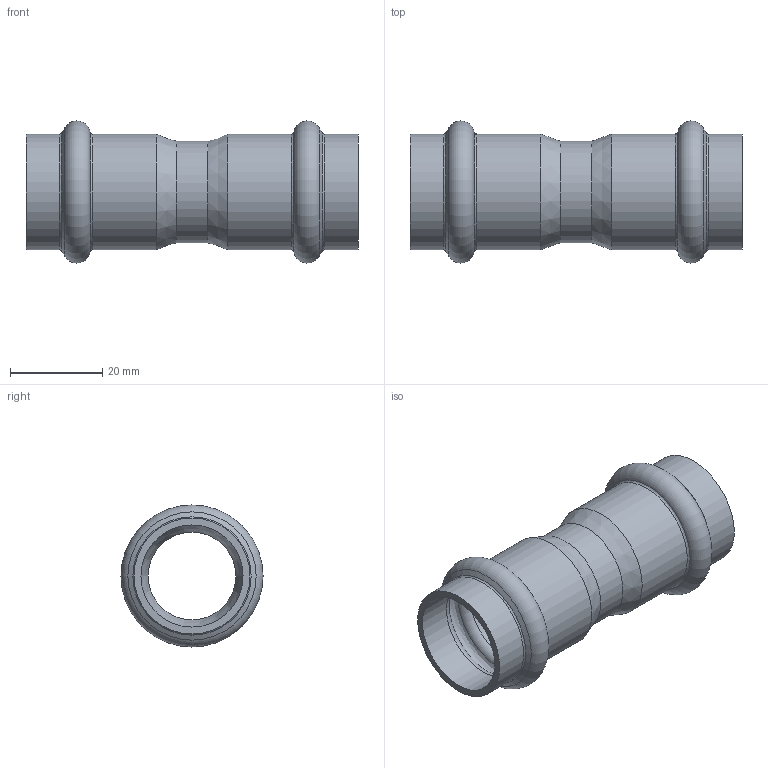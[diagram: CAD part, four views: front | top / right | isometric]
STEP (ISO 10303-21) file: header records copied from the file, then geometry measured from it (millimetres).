
FILE_DESCRIPTION((''),'2;1');
FILE_NAME('G:\Technics\CAD\Bauteile\022\6927022(2).stp','2008-02-18T10:54:40',('herberg'),(''),'Autodesk Inventor 2008','Autodesk Inventor 2008','');
FILE_SCHEMA(('AUTOMOTIVE_DESIGN { 1 0 10303 214 1 1 1 1 }'));
Length unit declared in the file: millimetre
Products named in the file (1): 6927022(2)
Bounding box: 72 x 30.8 x 30.8 mm (x, y, z)
Volume: 8781.1 mm3; surface area: 11929.9 mm2
Topology: 1 solids, 1 shells, 32 faces, 62 edges, 32 vertices
Faces by surface type: cylinder 10, cone 8, torus 6, bspline 6, plane 2
Full cylindrical faces by diameter (mm): 19 x1, 22 x1, 22.15 x4, 25.15 x4
Entity records: 986 total; most frequent: CARTESIAN_POINT 433, DIRECTION 118, ORIENTED_EDGE 64, EDGE_LOOP 64, AXIS2_PLACEMENT_3D 59, VERTEX_POINT 32, CIRCLE 32, EDGE_CURVE 32
